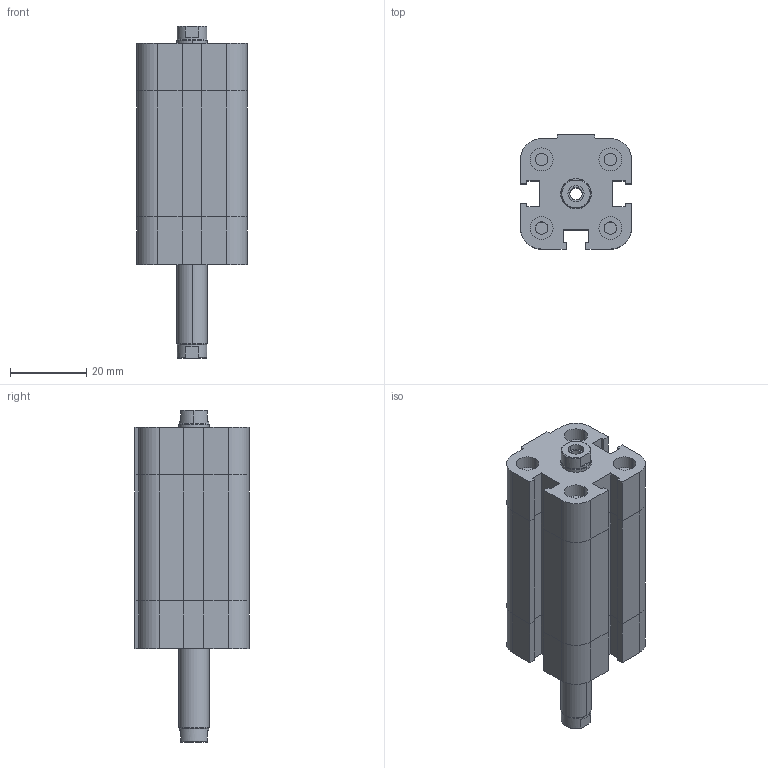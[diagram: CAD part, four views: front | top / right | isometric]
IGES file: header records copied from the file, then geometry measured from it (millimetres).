
Global section: file name: No Iges File Name specified; native system: Autodesk Inventor 2009; preprocessor: AutoDesk Inventor Iges Exporter R2009; author: maffial1; date: 20090420.201145; units: millimetre
Bounding box: 29 x 30 x 87 mm (x, y, z)
Volume: 41111.5 mm3; surface area: 16460 mm2
Topology: 2 solids, 2 shells, 204 faces, 456 edges, 278 vertices
Faces by surface type: plane 114, bspline 44, revolution 20, cylinder 18, cone 8
